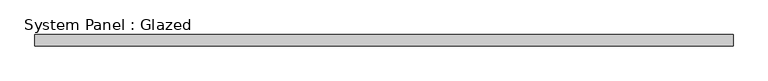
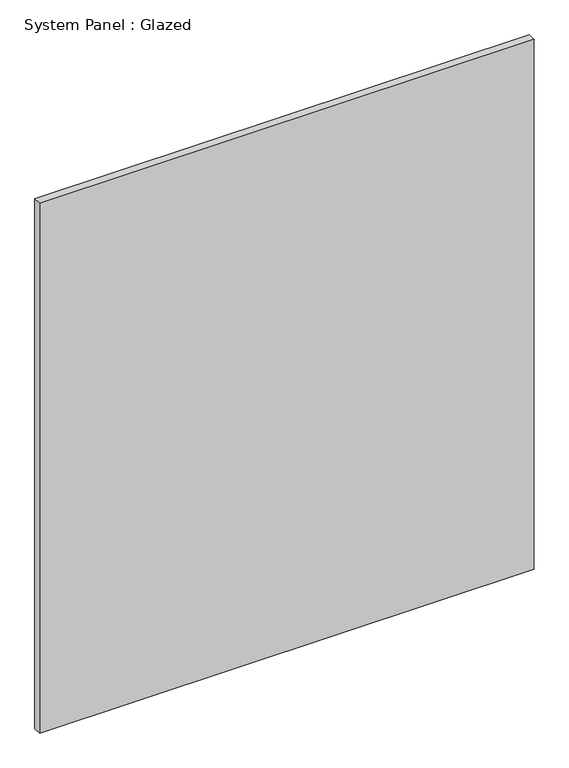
"""IFC4 building model written with IfcOpenShell, lengths in millimetres: plate geometry, System Panel : Glazed."""

import ifcopenshell
import ifcopenshell.guid

model = None  # the IFC model being written
_history = None  # IfcOwnerHistory: only IFC2X3 demands one
_inside = {}  # id of a spatial element -> (the spatial element, [elements in it])
_under = {}  # id of a project, library or spatial element -> (it, [spatial elements below it])
_declared = {}  # id of a project -> (the project, [libraries it declares])
_typed = {}  # id of a type object -> (the type object, [elements of that type])
_made_of = {}  # id of a material, layer set ... -> (it, [elements and type objects made of it])


def new_model(schema):
    """Start an empty IFC model of exactly this schema.

    Asked for "IFC4X3", IfcOpenShell would pick the latest addendum, in which some entities
    have other attributes; the version numbers below select the first issue.
    IFC2X3 requires an IfcOwnerHistory on every rooted entity: one is made here for all.
    """
    global model, _history
    if schema == "IFC4X3":
        model = ifcopenshell.file(schema_version=(4, 3, 0, 0))
    else:
        model = ifcopenshell.file(schema=schema)
    _inside.clear()
    _under.clear()
    _declared.clear()
    _typed.clear()
    _made_of.clear()
    _history = None
    if model.schema == "IFC2X3":
        org = make("IfcOrganization", Name="unknown")
        user = make(
            "IfcPersonAndOrganization",
            ThePerson=make("IfcPerson", FamilyName="unknown"),
            TheOrganization=org,
        )
        app = make(
            "IfcApplication",
            ApplicationDeveloper=org,
            Version="unknown",
            ApplicationFullName="unknown",
            ApplicationIdentifier="unknown",
        )
        _history = make(
            "IfcOwnerHistory",
            OwningUser=user,
            OwningApplication=app,
            ChangeAction="ADDED",
            CreationDate=0,
        )
    return model


def make(cls, **values):
    """One entity of the class cls with the attributes given. An attribute that is None is left unset."""
    return model.create_entity(
        cls, **{name: value for name, value in values.items() if value is not None}
    )


def rooted(cls, **values):
    """An entity with a GlobalId (a new one), such as an element, a storey or a relation."""
    return make(cls, GlobalId=ifcopenshell.guid.new(), OwnerHistory=_history, **values)


def si_unit(unit_type, name, prefix=None):
    """IfcSIUnit, for example si_unit("LENGTHUNIT", "METRE", prefix="MILLI")."""
    return make("IfcSIUnit", UnitType=unit_type, Prefix=prefix, Name=name)


def assignment(units):
    """IfcUnitAssignment: the units of a project."""
    return None if units is None else make("IfcUnitAssignment", Units=units)


def point(xyz):
    """IfcCartesianPoint."""
    return None if xyz is None else make("IfcCartesianPoint", Coordinates=xyz)


def direction(xyz):
    """IfcDirection."""
    return None if xyz is None else make("IfcDirection", DirectionRatios=xyz)


def frame(location, z_axis=None, x_axis=None):
    """IfcAxis2Placement3D, a coordinate frame: its origin and axes. An axis left out is left unset."""
    return make(
        "IfcAxis2Placement3D",
        Location=point(location),
        Axis=direction(z_axis),
        RefDirection=direction(x_axis),
    )


def origin():
    """The frame at (0, 0, 0) with its axes left unset."""
    return frame((0.0, 0.0, 0.0))


def origin_with_axes():
    """The frame at (0, 0, 0) with the z axis (0, 0, 1) and the x axis (1, 0, 0) written out."""
    return frame((0.0, 0.0, 0.0), z_axis=(0.0, 0.0, 1.0), x_axis=(1.0, 0.0, 0.0))


def place(relative_to, where):
    """IfcLocalPlacement: puts the frame where relative to a parent placement (None: the world)."""
    return make(
        "IfcLocalPlacement", PlacementRelTo=relative_to, RelativePlacement=where
    )


def context(
    kind, dimensions, precision=None, world=None, true_north=None, identifier=None
):
    """IfcGeometricRepresentationContext, for example the 3D "Model" context."""
    return make(
        "IfcGeometricRepresentationContext",
        ContextIdentifier=identifier,
        ContextType=kind,
        CoordinateSpaceDimension=dimensions,
        Precision=precision,
        WorldCoordinateSystem=world,
        TrueNorth=true_north,
    )


def project(units=None, contexts=None):
    """IfcProject with its units and contexts."""
    return rooted(
        "IfcProject",
        Name="project",
        RepresentationContexts=contexts,
        UnitsInContext=assignment(units),
    )


def spatial(cls, under=None, at=None, **own):
    """A site, building, storey or space (cls), placed at a placement, below another one or the project."""
    s = rooted(cls, ObjectPlacement=at, **own)
    if under is not None:
        _under.setdefault(under.id(), (under, []))[1].append(s)
    return s


def polyline(points):
    """IfcPolyline through the points."""
    return make("IfcPolyline", Points=[point(p) for p in points])


def outline(outer, holes=None, kind="AREA"):
    """IfcArbitraryClosedProfileDef: a profile drawn as a closed curve; with holes, ...WithVoids."""
    if holes is None:
        return make("IfcArbitraryClosedProfileDef", ProfileType=kind, OuterCurve=outer)
    return make(
        "IfcArbitraryProfileDefWithVoids",
        ProfileType=kind,
        OuterCurve=outer,
        InnerCurves=holes,
    )


def extrude(swept, where, along, depth):
    """IfcExtrudedAreaSolid: the profile swept, set in the frame where, extruded along a direction by depth."""
    return make(
        "IfcExtrudedAreaSolid",
        SweptArea=swept,
        Position=where,
        ExtrudedDirection=direction(along),
        Depth=depth,
    )


def shape(context_of_items, identifier, shape_type, items):
    """IfcShapeRepresentation: the items that make up one representation, for example the "Body"."""
    return make(
        "IfcShapeRepresentation",
        ContextOfItems=context_of_items,
        RepresentationIdentifier=identifier,
        RepresentationType=shape_type,
        Items=items,
    )


def source(mapping_origin, context_of_items, identifier, shape_type, items):
    """IfcRepresentationMap: a shape defined once, which mapped items show again and again."""
    return make(
        "IfcRepresentationMap",
        MappingOrigin=mapping_origin,
        MappedRepresentation=shape(context_of_items, identifier, shape_type, items),
    )


def transform(
    local_origin,
    x_axis=None,
    y_axis=None,
    z_axis=None,
    scale=None,
    scale2=None,
    scale3=None,
    uniform=True,
):
    """IfcCartesianTransformationOperator3D, or its non-uniform kind. x_axis, y_axis, z_axis: its Axis1, 2, 3."""
    if uniform:
        return make(
            "IfcCartesianTransformationOperator3D",
            Axis1=direction(x_axis),
            Axis2=direction(y_axis),
            LocalOrigin=point(local_origin),
            Scale=scale,
            Axis3=direction(z_axis),
        )
    return make(
        "IfcCartesianTransformationOperator3DnonUniform",
        Axis1=direction(x_axis),
        Axis2=direction(y_axis),
        LocalOrigin=point(local_origin),
        Scale=scale,
        Axis3=direction(z_axis),
        Scale2=scale2,
        Scale3=scale3,
    )


def mapped(mapping_source, mapping_target):
    """IfcMappedItem: shows the shape of a source again, moved by a transform."""
    return make(
        "IfcMappedItem", MappingSource=mapping_source, MappingTarget=mapping_target
    )


def made_of(thing, what):
    """Note that an element or type object is made of a material, layer set ...; save() writes the relation."""
    if what is not None:
        _made_of.setdefault(what.id(), (what, []))[1].append(thing)
    return thing


def element(
    cls,
    number,
    at=None,
    inside=None,
    cuts=None,
    type_object=None,
    material=None,
    context=None,
    identifier="Body",
    shape_type=None,
    held_by="IfcProductDefinitionShape",
    body=None,
    shapes=None,
    **own,
):
    """One element of the class cls, such as IfcWall. Its Tag is "e" and its number.

    at: its placement. inside: the storey or other place that contains it. cuts: it is an
    opening in that element (IfcRelVoidsElement). A single representation is given by context,
    identifier, shape_type and body (its items); several are given by shapes. held_by: the class
    of the entity that holds the representations. save() writes the other relations.
    """
    e = rooted(cls, Tag="e%d" % number, ObjectPlacement=at, **own)
    if body is not None:
        shapes = [shape(context, identifier, shape_type, body)]
    if shapes is not None:
        e.Representation = make(held_by, Representations=shapes)
    if inside is not None:
        _inside.setdefault(inside.id(), (inside, []))[1].append(e)
    if cuts is not None:
        rooted(
            "IfcRelVoidsElement", RelatingBuildingElement=cuts, RelatedOpeningElement=e
        )
    if type_object is not None:
        _typed.setdefault(type_object.id(), (type_object, []))[1].append(e)
    return made_of(e, material)


def aggregate(whole, parts):
    """IfcRelAggregates: a whole, such as a stair, and the parts it consists of."""
    return rooted("IfcRelAggregates", RelatingObject=whole, RelatedObjects=parts)


def save(model, path):
    """Write the relations noted so far, then the file.

    IfcRelAggregates (storeys below a building ...), IfcRelContainedInSpatialStructure (elements
    in a storey), IfcRelDefinesByType, IfcRelAssociatesMaterial and IfcRelDeclares: one each for
    every whole, place, type object, material and project.
    """
    for whole, parts in _under.values():
        aggregate(whole, parts)
    for where, things in _inside.values():
        rooted(
            "IfcRelContainedInSpatialStructure",
            RelatedElements=things,
            RelatingStructure=where,
        )
    for kind, things in _typed.values():
        rooted("IfcRelDefinesByType", RelatedObjects=things, RelatingType=kind)
    for what, things in _made_of.values():
        rooted("IfcRelAssociatesMaterial", RelatedObjects=things, RelatingMaterial=what)
    for by, libraries in _declared.values():
        rooted("IfcRelDeclares", RelatingContext=by, RelatedDefinitions=libraries)
    model.write(path)


def system_panel_glazed_9fcf10f8(model_context):
    return source(origin(), model_context, "Body", "SweptSolid", [
        extrude(outline(polyline([(788.035, -12.7), (-788.035, -12.7), (-788.035, 12.7), (788.035, 12.7), (788.035, -12.7)])), origin_with_axes(), (0.0, 0.0, 1.0), 1784.35),
    ])


if __name__ == "__main__":
    model = new_model("IFC4")
    model_context = context("Model", 3, world=origin())
    ifc_project = project(units=[si_unit("LENGTHUNIT", "METRE", prefix="MILLI")], contexts=[model_context])
    site = spatial("IfcSite", under=ifc_project)
    building = spatial("IfcBuilding", under=site)
    placement = place(None, origin())
    system_panel_glazed_shape = system_panel_glazed_9fcf10f8(model_context)
    element("IfcPlate", 1, ObjectType="System Panel : Glazed", at=placement, inside=building, context=model_context, shape_type="MappedRepresentation", body=[
        mapped(system_panel_glazed_shape, transform((0.0, 0.0, 0.0), x_axis=(1.0, 0.0, 0.0), y_axis=(0.0, 1.0, 0.0), z_axis=(0.0, 0.0, 1.0))),
    ])
    save(model, "model.ifc")
